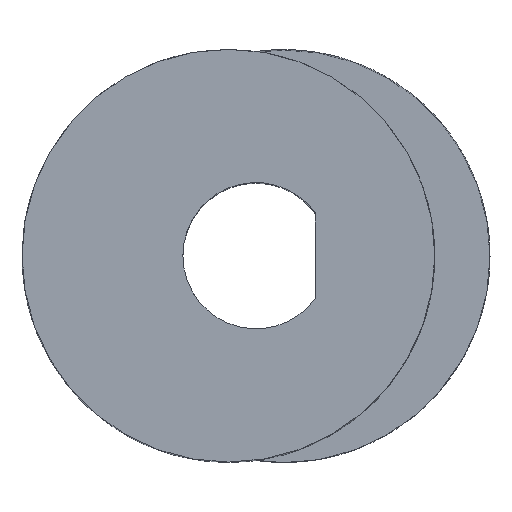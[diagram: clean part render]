
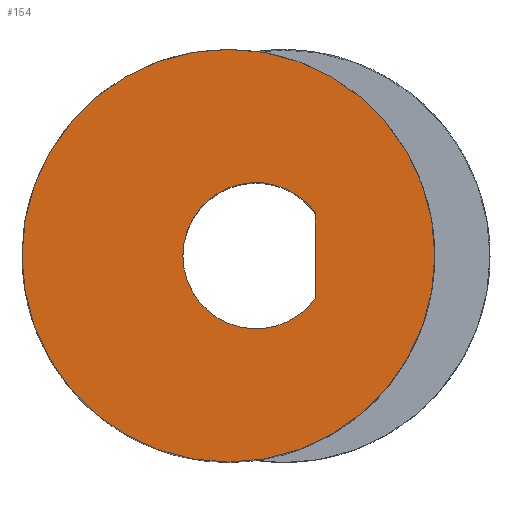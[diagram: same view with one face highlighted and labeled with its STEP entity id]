
A CAD part, top view. The second image highlights one B-rep face of the part: STEP entity #154.
In plain terms, the highlighted planar face has unit normal (0, 0, 1).
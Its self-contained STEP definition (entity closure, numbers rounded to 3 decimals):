
#15=FACE_BOUND('',#49,.T.);
#23=CIRCLE('',#178,2.65);
#24=CIRCLE('',#179,2.65);
#29=CIRCLE('',#186,7.48);
#38=FACE_OUTER_BOUND('',#48,.T.);
#48=EDGE_LOOP('',(#126));
#49=EDGE_LOOP('',(#127,#128,#129));
#57=LINE('',#257,#65);
#65=VECTOR('',#201,10.);
#73=VERTEX_POINT('',#254);
#74=VERTEX_POINT('',#256);
#76=VERTEX_POINT('',#264);
#80=VERTEX_POINT('',#277);
#85=EDGE_CURVE('',#74,#73,#57,.T.);
#90=EDGE_CURVE('',#73,#76,#23,.T.);
#91=EDGE_CURVE('',#76,#74,#24,.T.);
#96=EDGE_CURVE('',#80,#80,#29,.T.);
#126=ORIENTED_EDGE('',*,*,#96,.T.);
#127=ORIENTED_EDGE('',*,*,#90,.T.);
#128=ORIENTED_EDGE('',*,*,#91,.T.);
#129=ORIENTED_EDGE('',*,*,#85,.T.);
#146=PLANE('',#187);
#154=ADVANCED_FACE('',(#38,#15),#146,.T.);
#178=AXIS2_PLACEMENT_3D('',#266,#212,#213);
#179=AXIS2_PLACEMENT_3D('',#267,#214,#215);
#186=AXIS2_PLACEMENT_3D('',#278,#228,#229);
#187=AXIS2_PLACEMENT_3D('',#280,#231,#232);
#201=DIRECTION('',(0.,-1.,0.));
#212=DIRECTION('center_axis',(0.,0.,-1.));
#213=DIRECTION('ref_axis',(1.,0.,0.));
#214=DIRECTION('center_axis',(0.,0.,-1.));
#215=DIRECTION('ref_axis',(1.,0.,0.));
#228=DIRECTION('center_axis',(0.,0.,1.));
#229=DIRECTION('ref_axis',(1.,0.,0.));
#231=DIRECTION('center_axis',(0.,0.,1.));
#232=DIRECTION('ref_axis',(1.,0.,0.));
#254=CARTESIAN_POINT('',(2.15,-1.549,18.3));
#256=CARTESIAN_POINT('',(2.15,1.549,18.3));
#257=CARTESIAN_POINT('',(2.15,-1.549,18.3));
#264=CARTESIAN_POINT('',(-2.65,0.,18.3));
#266=CARTESIAN_POINT('Origin',(0.,0.,18.3));
#267=CARTESIAN_POINT('Origin',(0.,0.,18.3));
#277=CARTESIAN_POINT('',(-8.48,0.,18.3));
#278=CARTESIAN_POINT('Origin',(-1.,0.,18.3));
#280=CARTESIAN_POINT('Origin',(-1.,0.,18.3));
